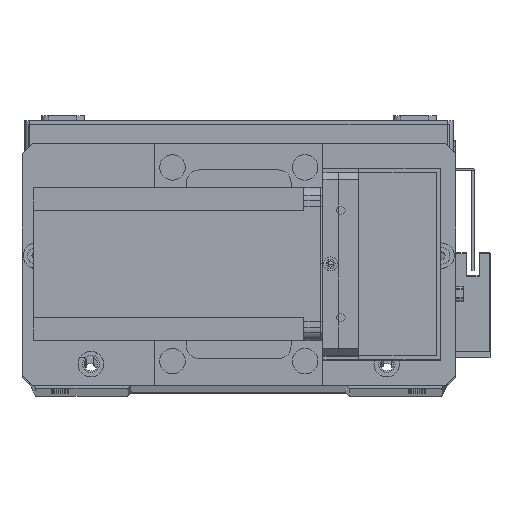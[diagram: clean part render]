
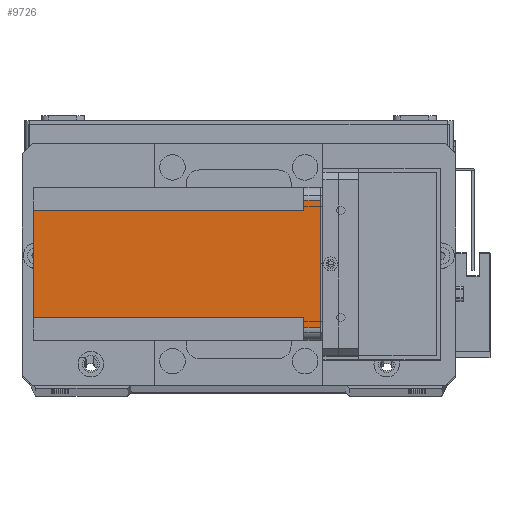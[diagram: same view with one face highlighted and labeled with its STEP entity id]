
A CAD part, top view. The second image highlights one B-rep face of the part: STEP entity #9726.
In plain terms, the highlighted planar face has unit normal (0, 0, 1) as drawn and (-1, 0, 0) by its records, which use the part's own axes.
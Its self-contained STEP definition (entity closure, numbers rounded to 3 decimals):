
#52 = VERTEX_POINT ( 'NONE', #11823 ) ;
#54 = LINE ( 'NONE', #31562, #5633 ) ;
#325 = DIRECTION ( 'NONE',  ( 0., 1., 0. ) ) ;
#793 = VECTOR ( 'NONE', #12027, 1000. ) ;
#873 = CARTESIAN_POINT ( 'NONE',  ( 0., 0., -112.5 ) ) ;
#1147 = PLANE ( 'NONE',  #10564 ) ;
#1290 = DIRECTION ( 'NONE',  ( -1., 0., 0. ) ) ;
#1333 = DIRECTION ( 'NONE',  ( 0., -1., 0. ) ) ;
#1587 = CARTESIAN_POINT ( 'NONE',  ( 0., 5., -112.5 ) ) ;
#1697 = LINE ( 'NONE', #5956, #793 ) ;
#1783 = LINE ( 'NONE', #13482, #11679 ) ;
#2313 = CARTESIAN_POINT ( 'NONE',  ( 0., 0., -6.5 ) ) ;
#3445 = CARTESIAN_POINT ( 'NONE',  ( 0., 51., -112.5 ) ) ;
#3491 = VERTEX_POINT ( 'NONE', #6825 ) ;
#4034 = EDGE_CURVE ( 'NONE', #13894, #8400, #18971, .T. ) ;
#4125 = EDGE_CURVE ( 'NONE', #3491, #52, #6206, .T. ) ;
#4128 = EDGE_CURVE ( 'NONE', #3491, #8400, #24671, .T. ) ;
#4167 = EDGE_CURVE ( 'NONE', #13894, #20167, #10859, .T. ) ;
#4217 = EDGE_CURVE ( 'NONE', #23973, #20167, #1783, .T. ) ;
#4229 = EDGE_CURVE ( 'NONE', #30990, #23973, #4258, .T. ) ;
#4258 = LINE ( 'NONE', #3445, #16176 ) ;
#4264 = EDGE_CURVE ( 'NONE', #30990, #6989, #1697, .T. ) ;
#4310 = EDGE_CURVE ( 'NONE', #52, #6989, #54, .T. ) ;
#4591 = VECTOR ( 'NONE', #325, 1000. ) ;
#4612 = ORIENTED_EDGE ( 'NONE', *, *, #4125, .F. ) ;
#4623 = DIRECTION ( 'NONE',  ( 0., 0., 1. ) ) ;
#4770 = CARTESIAN_POINT ( 'NONE',  ( 0., 0., 0. ) ) ;
#4849 = VECTOR ( 'NONE', #22689, 1000. ) ;
#4999 = DIRECTION ( 'NONE',  ( 0., -1., 0. ) ) ;
#5633 = VECTOR ( 'NONE', #31628, 1000. ) ;
#5956 = CARTESIAN_POINT ( 'NONE',  ( 0., 0., -112.5 ) ) ;
#6206 = LINE ( 'NONE', #2313, #4591 ) ;
#6391 = ORIENTED_EDGE ( 'NONE', *, *, #4128, .T. ) ;
#6825 = CARTESIAN_POINT ( 'NONE',  ( 0., 5., -6.5 ) ) ;
#6989 = VERTEX_POINT ( 'NONE', #14407 ) ;
#8400 = VERTEX_POINT ( 'NONE', #12766 ) ;
#8738 = ORIENTED_EDGE ( 'NONE', *, *, #4034, .F. ) ;
#9415 = DIRECTION ( 'NONE',  ( 0., 1., 0. ) ) ;
#9455 = CARTESIAN_POINT ( 'NONE',  ( 0., 55., 0. ) ) ;
#9726 = ADVANCED_FACE ( 'NONE', ( #25539 ), #1147, .T. ) ;
#9881 = EDGE_LOOP ( 'NONE', ( #4612, #6391, #8738, #11452, #12637, #15453, #18449, #30597 ) ) ;
#10564 = AXIS2_PLACEMENT_3D ( 'NONE', #873, #1290, #1333 ) ;
#10859 = LINE ( 'NONE', #17551, #4849 ) ;
#11452 = ORIENTED_EDGE ( 'NONE', *, *, #4167, .T. ) ;
#11679 = VECTOR ( 'NONE', #9415, 1000. ) ;
#11823 = CARTESIAN_POINT ( 'NONE',  ( 0., 9., -6.5 ) ) ;
#12027 = DIRECTION ( 'NONE',  ( 0., -1., 0. ) ) ;
#12637 = ORIENTED_EDGE ( 'NONE', *, *, #4217, .F. ) ;
#12766 = CARTESIAN_POINT ( 'NONE',  ( 0., 5., 0. ) ) ;
#13367 = CARTESIAN_POINT ( 'NONE',  ( 0., 51., -112.5 ) ) ;
#13482 = CARTESIAN_POINT ( 'NONE',  ( 0., 60., -6.5 ) ) ;
#13894 = VERTEX_POINT ( 'NONE', #9455 ) ;
#14407 = CARTESIAN_POINT ( 'NONE',  ( 0., 9., -112.5 ) ) ;
#15453 = ORIENTED_EDGE ( 'NONE', *, *, #4229, .F. ) ;
#16176 = VECTOR ( 'NONE', #4623, 1000. ) ;
#17551 = CARTESIAN_POINT ( 'NONE',  ( 0., 55., -112.5 ) ) ;
#18449 = ORIENTED_EDGE ( 'NONE', *, *, #4264, .T. ) ;
#18971 = LINE ( 'NONE', #4770, #21633 ) ;
#20167 = VERTEX_POINT ( 'NONE', #28863 ) ;
#21633 = VECTOR ( 'NONE', #4999, 1000. ) ;
#22689 = DIRECTION ( 'NONE',  ( 0., 0., -1. ) ) ;
#22905 = CARTESIAN_POINT ( 'NONE',  ( 0., 51., -6.5 ) ) ;
#23153 = VECTOR ( 'NONE', #29819, 1000. ) ;
#23973 = VERTEX_POINT ( 'NONE', #22905 ) ;
#24671 = LINE ( 'NONE', #1587, #23153 ) ;
#25539 = FACE_OUTER_BOUND ( 'NONE', #9881, .T. ) ;
#28863 = CARTESIAN_POINT ( 'NONE',  ( 0., 55., -6.5 ) ) ;
#29819 = DIRECTION ( 'NONE',  ( 0., 0., 1. ) ) ;
#30597 = ORIENTED_EDGE ( 'NONE', *, *, #4310, .F. ) ;
#30990 = VERTEX_POINT ( 'NONE', #13367 ) ;
#31562 = CARTESIAN_POINT ( 'NONE',  ( 0., 9., -112.5 ) ) ;
#31628 = DIRECTION ( 'NONE',  ( 0., 0., -1. ) ) ;
